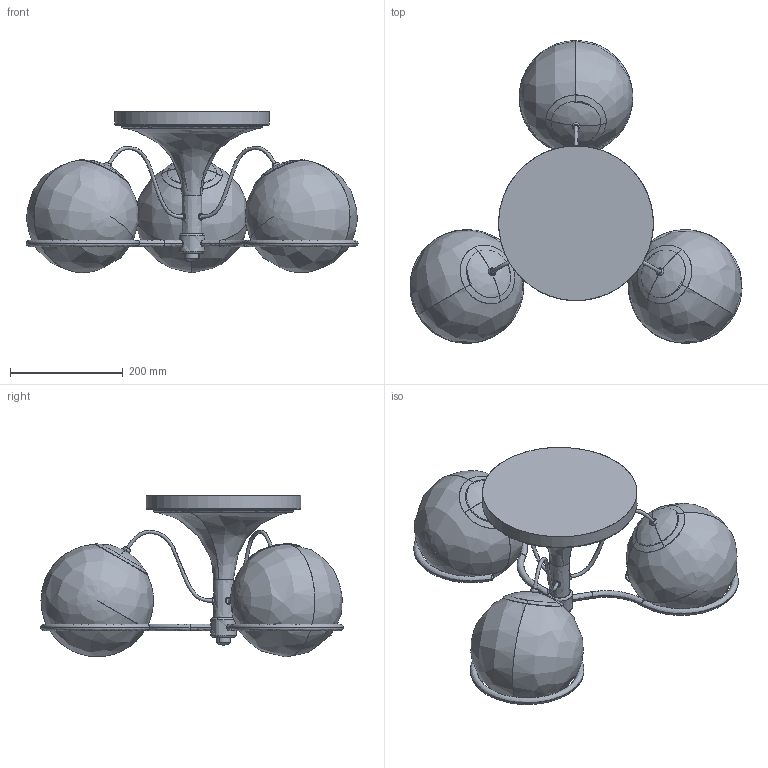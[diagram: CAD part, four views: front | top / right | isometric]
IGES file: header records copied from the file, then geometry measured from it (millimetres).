
Global section: file name: /Users/nicholas/Desktop/Astep - CAD - Model 2042-6/Model 2042:3.igs; native system: Rhinoceros ( Nov 19 2019 ); preprocessor: Trout Lake IGES 012 Nov 19 2019; date: 201111.115554; units: millimetre
Bounding box: 589.86 x 537.85 x 287.1 mm (x, y, z)
Surface area: 1074320.1 mm2 (no closed solid volume)
Topology: 0 solids, 0 shells, 147 faces, 1365 edges, 1340 vertices
Faces by surface type: bspline 147
